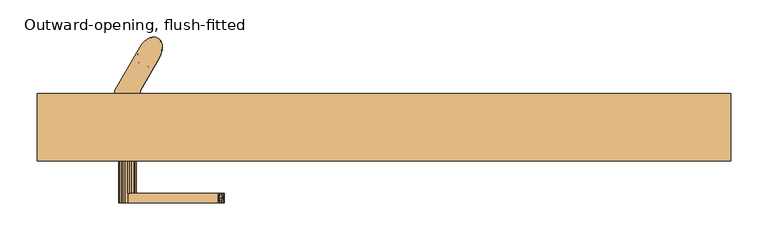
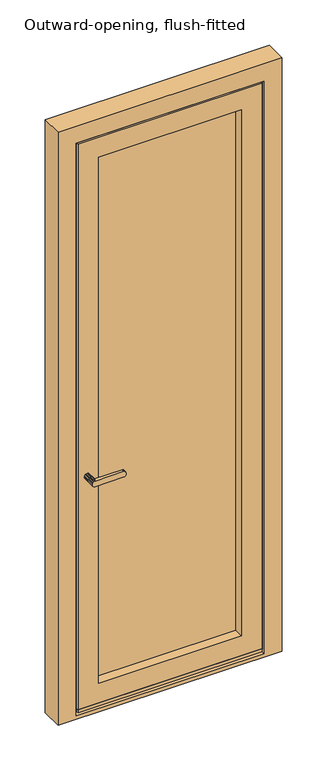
"""IFC4 building model written with IfcOpenShell, lengths in millimetres: door geometry, Outward-opening, flush-fitted."""

from ifc_helpers import new_model, si_unit, frame, origin, place, context, project, spatial, polyline, outline, extrude, faceted_brep, source, transform, mapped, element, save


def outward_opening_flush_fitted_0320c3c3(model_context):
    return source(origin(), model_context, "Body", "SolidModel", [
        faceted_brep([(112.5227579, 510.0, 1208.4772421), (115.0056846, 510.0, 1210.3824588), (117.897114, 510.0, 1211.5801281), (121.0, 510.0, 1211.9886308), (124.102886, 510.0, 1211.5801281), (126.9943154, 510.0, 1210.3824588), (129.4772421, 510.0, 1208.4772421), (131.3824588, 510.0, 1205.9943154), (132.5801281, 510.0, 1203.102886), (132.9886308, 510.0, 1200.0), (132.5801281, 510.0, 1196.897114), (131.3824588, 510.0, 1194.0056846), (129.4772421, 510.0, 1191.5227579), (126.9943154, 510.0, 1189.6175412), (124.102886, 510.0, 1188.4198719), (121.0, 510.0, 1188.0113692), (117.897114, 510.0, 1188.4198719), (115.0056846, 510.0, 1189.6175412), (112.5227579, 510.0, 1191.5227579), (110.6175412, 510.0, 1194.0056846), (109.4198719, 510.0, 1196.897114), (109.0113692, 510.0, 1200.0), (109.4198719, 510.0, 1203.102886), (110.6175412, 510.0, 1205.9943154), (124.102886, 466.5001175, 1188.4198719), (121.0, 466.5001175, 1188.0113692), (126.9943154, 466.5001175, 1189.6175412), (131.3824588, 466.5001175, 1194.0056846), (129.4772421, 466.5001175, 1191.5227579), (132.5801281, 466.5001175, 1196.897114), (132.9886308, 466.5001175, 1200.0), (132.5801281, 466.5001175, 1203.102886), (131.3824588, 466.5001175, 1205.9943154), (126.9943154, 466.5001175, 1210.3824588), (129.4772421, 466.5001175, 1208.4772421), (124.102886, 466.5001175, 1211.5801281), (121.0, 466.5001175, 1211.9886308), (117.897114, 454.0000305, 1211.5801281), (121.0, 454.0000305, 1211.9886308), (115.0056846, 454.0000305, 1210.3824588), (110.6175412, 454.0000305, 1205.9943154), (112.5227579, 454.0000305, 1208.4772421), (109.4198719, 454.0000305, 1203.102886), (109.0113692, 454.0000305, 1200.0), (109.4198719, 454.0000305, 1196.897114), (110.6175412, 454.0000305, 1194.0056846), (115.0056846, 454.0000305, 1189.6175412), (112.5227579, 454.0000305, 1191.5227579), (117.897114, 454.0000305, 1188.4198719), (121.0, 454.0000305, 1188.0113692), (242.6617926, 454.0000305, 1188.0113692), (244.2039971, 454.0000305, 1188.2417274), (245.6869356, 454.0000305, 1188.9239494), (247.0536195, 454.0000305, 1190.0318178), (248.2515279, 454.0000305, 1191.5227579), (249.234626, 454.0000305, 1193.3394736), (249.9651338, 454.0000305, 1195.4121496), (250.4149782, 454.0000305, 1197.6611342), (250.5668721, 454.0000305, 1200.0), (250.4149782, 454.0000305, 1202.3388658), (249.9651338, 454.0000305, 1204.5878504), (249.234626, 454.0000305, 1206.6605264), (248.2515279, 454.0000305, 1208.4772421), (247.0536195, 454.0000305, 1209.9681822), (245.6869356, 454.0000305, 1211.0760506), (244.2039971, 454.0000305, 1211.7582726), (242.6617926, 454.0000305, 1211.9886308), (249.9651338, 466.5001175, 1195.4121496), (249.234626, 466.5001175, 1193.3394736), (248.2515279, 466.5001175, 1191.5227579), (247.0536195, 466.5001175, 1190.0318178), (245.6869356, 466.5001175, 1188.9239494), (244.2039971, 466.5001175, 1188.2417274), (242.6617926, 466.5001175, 1188.0113692), (242.6617926, 466.5001175, 1211.9886308), (244.2039971, 466.5001175, 1211.7582726), (245.6869356, 466.5001175, 1211.0760506), (247.0536195, 466.5001175, 1209.9681822), (248.2515279, 466.5001175, 1208.4772421), (249.234626, 466.5001175, 1206.6605264), (249.9651338, 466.5001175, 1204.5878504), (250.4149782, 466.5001175, 1202.3388658), (250.5668721, 466.5001175, 1200.0), (250.4149782, 466.5001175, 1197.6611342), (242.6617926, 461.0756599, 1188.0113692), (246.3882212, 460.2500761, 1189.4269715), (248.7725017, 460.2500743, 1192.3944932), (250.226482, 460.250074, 1196.5198842), (249.6334503, 460.250074, 1205.6514014), (250.528807, 460.2500741, 1201.1750915), (244.9565161, 460.250074, 1211.4724044), (247.676722, 460.250074, 1209.2673369), (242.6617926, 460.250074, 1211.9886308)], [[[0, 1, 2, 3, 4, 5, 6, 7, 8, 9, 10, 11, 12, 13, 14, 15, 16, 17, 18, 19, 20, 21, 22, 23]], [[14, 24, 25, 15]], [[13, 26, 24, 14]], [[27, 28, 12, 11]], [[13, 12, 28, 26]], [[29, 27, 11, 10]], [[30, 29, 10, 9]], [[8, 31, 30, 9]], [[7, 32, 31, 8]], [[33, 34, 6, 5]], [[7, 6, 34, 32]], [[35, 33, 5, 4]], [[36, 35, 4, 3]], [[2, 37, 38, 36, 3]], [[1, 39, 37, 2]], [[23, 40, 41, 0]], [[1, 0, 41, 39]], [[22, 42, 40, 23]], [[21, 43, 42, 22]], [[20, 44, 43, 21]], [[19, 45, 44, 20]], [[17, 46, 47, 18]], [[19, 18, 47, 45]], [[16, 48, 46, 17]], [[25, 49, 48, 16, 15]], [[45, 47, 46, 48, 49, 50, 51, 52, 53, 54, 55, 56, 57, 58, 59, 60, 61, 62, 63, 64, 65, 66, 38, 37, 39, 41, 40, 42, 43, 44]], [[67, 68, 69, 70, 71, 72, 73, 25, 24, 26, 28, 27, 29, 30, 31, 32, 34, 33, 35, 36, 74, 75, 76, 77, 78, 79, 80, 81, 82, 83]], [[49, 25, 73, 84, 50]], [[85, 52, 51]], [[53, 85, 86]], [[67, 87, 68]], [[69, 86, 70]], [[80, 88, 81]], [[72, 85, 84]], [[57, 56, 87]], [[60, 59, 89]], [[86, 87, 56]], [[76, 90, 91, 77]], [[86, 55, 54]], [[79, 78, 91, 88]], [[58, 87, 89]], [[70, 85, 71]], [[84, 73, 72]], [[50, 84, 51]], [[85, 72, 71]], [[58, 57, 87]], [[52, 85, 53]], [[86, 56, 55]], [[86, 54, 53]], [[68, 86, 69]], [[86, 85, 70]], [[74, 92, 75]], [[92, 66, 65]], [[62, 61, 88, 91]], [[87, 86, 68]], [[85, 51, 84]], [[87, 67, 83]], [[91, 90, 64, 63]], [[89, 87, 83]], [[61, 60, 88]], [[89, 88, 60]], [[90, 65, 64]], [[63, 62, 91]], [[89, 83, 82]], [[81, 89, 82]], [[88, 89, 81]], [[79, 88, 80]], [[90, 92, 65]], [[78, 77, 91]], [[75, 90, 76]], [[75, 92, 90]], [[59, 58, 89]], [[38, 66, 92, 74, 36]]]),
        faceted_brep([(854.0, 510.0, 2674.0), (854.0, 518.3, 2674.0), (854.0, 518.3, 167.8651688), (854.0, 510.0, 165.0072496), (76.0, 518.3, 2674.0), (76.0, 518.3, 167.8651688), (55.5, 518.3, 167.8651688), (55.5, 518.3, 2694.5), (874.5, 518.3, 2694.5), (874.5, 518.3, 167.8651688), (874.5, 591.7, 2694.5), (874.5, 591.7, 164.3), (874.5, 532.0, 164.3), (874.5, 532.0, 170.0), (874.5, 524.5, 170.0), (886.0, 599.9993365, 150.0), (886.0, 591.7, 150.0), (886.0, 591.7, 2706.0), (886.0, 599.9993365, 2706.0), (930.0, 599.9993365, 150.0), (44.0, 599.9993365, 2706.0), (44.0, 599.9993365, 150.0), (0.0, 599.9993365, 150.0), (0.0, 599.9993365, 2750.0), (930.0, 599.9993365, 2750.0), (76.0, 510.0, 2674.0), (76.0, 510.0, 165.0072496), (44.0, 591.7, 2706.0), (44.0, 591.7, 150.0), (55.5, 591.7, 2694.5), (55.5, 524.5, 170.0), (55.5, 532.0, 170.0), (55.5, 532.0, 164.3), (55.5, 591.7, 164.3), (0.0, 510.0, 2750.0), (930.0, 510.0, 2750.0), (930.0, 510.0, 150.0), (0.0, 510.0, 150.0)], [[[0, 1, 2, 3]], [[1, 4, 5, 6, 7, 8, 9, 2]], [[8, 10, 11, 12, 13, 14, 9]], [[15, 16, 17, 18]], [[19, 15, 18, 20, 21, 22, 23, 24]], [[4, 25, 26, 5]], [[20, 27, 28, 21]], [[29, 7, 6, 30, 31, 32, 33]], [[25, 4, 1, 0]], [[27, 20, 18, 17]], [[23, 34, 35, 24]], [[29, 10, 8, 7]], [[19, 24, 35, 36]], [[34, 23, 22, 37]], [[37, 36, 35, 34], [3, 26, 25, 0]], [[19, 36, 37, 22, 21, 28, 16, 15]], [[14, 30, 6, 5, 26, 3, 2, 9]], [[16, 28, 27, 17], [33, 11, 10, 29]], [[11, 33, 32, 12]], [[12, 32, 31, 13]], [[13, 31, 30, 14]]]),
        faceted_brep([(71.5, 518.3, 2678.5), (71.5, 591.7, 2678.5), (71.5, 591.7, 178.5), (71.5, 518.3, 178.5), (51.0, 591.7, 2699.0), (51.0, 591.7, 158.0), (879.0, 591.7, 158.0), (879.0, 591.7, 2699.0), (858.5, 591.7, 2678.5), (858.5, 591.7, 178.5), (858.5, 518.3, 178.5), (858.5, 518.3, 2678.5), (847.0, 518.3, 2667.0), (847.0, 518.3, 190.0), (83.0, 518.3, 190.0), (83.0, 518.3, 2667.0), (83.0, 510.0, 2667.0), (83.0, 510.0, 190.0), (847.0, 510.0, 190.0), (847.0, 510.0, 2667.0), (761.9999695, 510.0, 2581.9999695), (761.9999695, 510.0, 275.0000305), (168.0000305, 510.0, 275.0000305), (168.0000305, 510.0, 2581.9999695), (168.0000305, 551.0, 2581.9999695), (168.0000305, 551.0, 275.0000305), (761.9999695, 551.0, 275.0000305), (777.0, 551.0, 2597.0), (777.0, 551.0, 260.0), (153.0, 551.0, 260.0), (153.0, 551.0, 2597.0), (761.9999695, 551.0, 2581.9999695), (153.0, 589.0, 2597.0), (153.0, 589.0, 260.0), (777.0, 589.0, 260.0), (777.0, 589.0, 2597.0), (760.0, 589.0, 2580.0), (760.0, 589.0, 277.0), (170.0, 589.0, 277.0), (170.0, 589.0, 2580.0), (170.0, 600.0, 2580.0), (170.0, 600.0, 277.0), (760.0, 600.0, 277.0), (879.0, 600.0, 2699.0), (879.0, 600.0, 158.0), (51.0, 600.0, 158.0), (51.0, 600.0, 2699.0), (760.0, 600.0, 2580.0)], [[[0, 1, 2, 3]], [[4, 5, 6, 7], [8, 9, 2, 1]], [[3, 2, 9, 10]], [[0, 3, 10, 11], [12, 13, 14, 15]], [[16, 15, 14, 17]], [[17, 14, 13, 18]], [[16, 17, 18, 19], [20, 21, 22, 23]], [[24, 23, 22, 25]], [[25, 22, 21, 26]], [[27, 28, 29, 30], [24, 25, 26, 31]], [[32, 30, 29, 33]], [[33, 29, 28, 34]], [[32, 33, 34, 35], [36, 37, 38, 39]], [[40, 39, 38, 41]], [[41, 38, 37, 42]], [[43, 44, 45, 46], [40, 41, 42, 47]], [[4, 46, 45, 5]], [[5, 45, 44, 6]], [[10, 9, 8, 11]], [[18, 13, 12, 19]], [[26, 21, 20, 31]], [[34, 28, 27, 35]], [[42, 37, 36, 47]], [[6, 44, 43, 7]], [[11, 8, 1, 0]], [[19, 12, 15, 16]], [[31, 20, 23, 24]], [[35, 27, 30, 32]], [[47, 36, 39, 40]], [[7, 43, 46, 4]]]),
        faceted_brep([(137.9561005, 600.0, 243.5), (137.9561005, 604.0, 243.5), (104.0438995, 604.0, 243.5), (104.0438995, 600.0, 243.5), (137.9561005, 604.0, 213.5), (104.0438995, 604.0, 213.5), (137.9561005, 600.0, 209.5), (137.9561005, 604.0, 209.5), (104.0438995, 600.0, 209.5), (104.0438995, 604.0, 209.5), (164.3389949, 672.5301271, 213.5), (161.7797579, 674.6325794, 213.5), (158.6793625, 675.7977182, 213.5), (155.1932755, 675.9671186, 213.5), (151.4963038, 675.1322861, 213.5), (147.773829, 673.3350828, 213.5), (144.2125117, 670.6656279, 213.5), (140.9909311, 667.2577791, 213.5), (138.2706308, 663.2824201, 213.5), (163.7047856, 648.5980002, 213.5), (165.7873991, 652.9415279, 213.5), (167.1278943, 657.4354221, 213.5), (167.6590531, 661.8543403, 213.5), (167.354241, 665.9766994, 213.5), (166.2287425, 669.5957871, 213.5), (138.2706308, 663.2824201, 209.5), (140.9909311, 667.2577791, 209.5), (144.2125117, 670.6656279, 209.5), (147.773829, 673.3350828, 209.5), (151.4963038, 675.1322861, 209.5), (155.1932755, 675.9671186, 209.5), (158.6793625, 675.7977182, 209.5), (161.7797579, 674.6325794, 209.5), (164.3389949, 672.5301271, 209.5), (166.2287425, 669.5957871, 209.5), (167.354241, 665.9766994, 209.5), (167.6590531, 661.8543403, 209.5), (167.1278943, 657.4354221, 209.5), (165.7873991, 652.9415279, 209.5), (163.7047856, 648.5980002, 209.5), (138.2706308, 663.2824201, 211.9099144), (163.7047856, 648.5980002, 211.0900855), (165.3743289, 671.1586471, 211.5), (153.3597053, 675.6737832, 211.5), (167.6445577, 661.4468941, 211.5)], [[[0, 1, 2, 3]], [[4, 5, 2, 1]], [[6, 7, 4, 1, 0]], [[8, 6, 0, 3]], [[9, 8, 3, 2, 5]], [[10, 11, 12, 13, 14, 15, 16, 17, 18, 5, 4, 19, 20, 21, 22, 23, 24]], [[6, 8, 9, 25, 26, 27, 28, 29, 30, 31, 32, 33, 34, 35, 36, 37, 38, 39, 7]], [[9, 5, 18, 40, 25]], [[7, 39, 41, 19, 4]], [[40, 18, 17]], [[26, 25, 40]], [[24, 42, 10]], [[43, 27, 40]], [[40, 27, 26]], [[43, 30, 29]], [[15, 43, 16]], [[13, 43, 14]], [[32, 31, 43]], [[41, 39, 38]], [[20, 19, 41]], [[28, 43, 29]], [[17, 16, 40]], [[31, 30, 43]], [[35, 34, 42]], [[28, 27, 43]], [[20, 41, 44]], [[15, 14, 43]], [[13, 12, 43]], [[40, 16, 43]], [[11, 43, 12]], [[32, 43, 42]], [[34, 33, 42]], [[35, 44, 36]], [[38, 37, 41]], [[37, 44, 41]], [[36, 44, 37]], [[44, 21, 20]], [[42, 43, 11]], [[32, 42, 33]], [[42, 11, 10]], [[23, 42, 24]], [[44, 42, 23]], [[35, 42, 44]], [[23, 22, 44]], [[22, 21, 44]]]),
        faceted_brep([(166.2287431, 669.5957857, 2643.5), (164.3389959, 672.5301259, 2643.5), (161.7797595, 674.6325784, 2643.5), (158.6793647, 675.7977178, 2643.5), (155.1932781, 675.9671188, 2643.5), (151.4963068, 675.1322872, 2643.5), (147.7738322, 673.3350848, 2643.5), (144.212515, 670.6656309, 2643.5), (140.9909342, 667.257783, 2643.5), (138.2706335, 663.2824248, 2643.5), (136.1880202, 658.9388975, 2643.5), (134.847525, 654.4450036, 2643.5), (134.3163661, 650.0260857, 2643.5), (134.6211779, 645.9037268, 2643.5), (135.7466761, 642.2846393, 2643.5), (137.6364232, 639.3502991, 2643.5), (140.1956596, 637.2478466, 2643.5), (143.2960545, 636.0827073, 2643.5), (146.7821411, 635.9133062, 2643.5), (150.4791124, 636.7481378, 2643.5), (154.2015869, 638.5453402, 2643.5), (157.7629042, 641.2147941, 2643.5), (160.9844849, 644.622642, 2643.5), (163.7047856, 648.5980002, 2643.5), (165.787399, 652.9415275, 2643.5), (167.1278941, 657.4354214, 2643.5), (167.6590531, 661.8543393, 2643.5), (167.3542412, 665.9766982, 2643.5), (143.2960545, 636.0827073, 213.5), (140.1956596, 637.2478466, 213.5), (137.6364232, 639.3502991, 213.5), (135.7466761, 642.2846393, 213.5), (134.6211779, 645.9037268, 213.5), (134.3163661, 650.0260857, 213.5), (134.847525, 654.4450036, 213.5), (136.1880202, 658.9388975, 213.5), (138.2706335, 663.2824248, 213.5), (140.9909342, 667.257783, 213.5), (144.212515, 670.6656309, 213.5), (147.7738322, 673.3350848, 213.5), (151.4963068, 675.1322872, 213.5), (155.1932781, 675.9671188, 213.5), (158.6793647, 675.7977178, 213.5), (161.7797595, 674.6325784, 213.5), (164.3389959, 672.5301259, 213.5), (166.2287431, 669.5957857, 213.5), (167.3542412, 665.9766982, 213.5), (167.6590531, 661.8543393, 213.5), (167.1278941, 657.4354214, 213.5), (165.787399, 652.9415275, 213.5), (163.7047856, 648.5980002, 213.5), (160.9844849, 644.622642, 213.5), (157.7629042, 641.2147941, 213.5), (154.2015869, 638.5453402, 213.5), (150.4791124, 636.7481378, 213.5), (146.7821411, 635.9133062, 213.5), (146.795722, 672.7002488, 285.1216157), (163.7047856, 648.5980002, 464.612136), (166.7192718, 668.3814933, 477.503479), (167.6667449, 662.3840043, 541.7922648), (165.3743296, 671.1586461, 2565.8178129), (153.359707, 675.6737836, 2551.4140378), (138.2706335, 663.2824248, 2559.7959546), (167.2176562, 666.6421284, 2288.9719226), (167.6442052, 663.4170006, 2205.4496908), (161.7797595, 674.6325784, 2214.3806783), (167.5983235, 660.689855, 2571.8783868), (156.9739605, 676.0086042, 291.1821801), (138.2706335, 663.2824248, 380.9080907), (145.7074112, 671.9089118, 412.3733957), (148.3303893, 673.6652573, 349.5601242), (153.896408, 675.7847841, 2379.4965602), (138.2706335, 663.2824248, 2392.3878682), (151.2884269, 675.0570647, 2465.163568), (150.0235245, 674.535689, 1487.3231053), (162.4020857, 674.2421075, 1504.4375282), (159.2966599, 675.6535898, 1406.0393016), (167.6667127, 662.5014222, 2507.4398827), (163.1357621, 673.6929778, 2490.8363335), (162.6367613, 674.0776297, 2417.7296311), (164.8527338, 671.9034648, 278.6589928), (167.6111722, 663.9659797, 316.9067942), (147.8244912, 673.3660578, 845.8962913), (157.9552272, 675.9194231, 799.4283622), (147.3792233, 673.0874413, 757.5763391), (163.7047856, 648.5980002, 2392.387864), (167.4571604, 659.3516824, 2444.6266291), (163.7047856, 648.5980002, 2476.0919094), (161.7797596, 674.6325784, 642.6193347), (151.9403519, 675.2830609, 570.2187422), (148.7828448, 673.917446, 667.2367993), (138.2706335, 663.2824248, 464.6121361), (161.2248379, 674.9300646, 1205.6986099), (166.8405253, 668.0219413, 1192.222599), (163.5673883, 673.3177683, 1149.2579881), (163.7047856, 648.5980002, 2308.6838187), (167.4665493, 665.2946764, 2388.4378932), (138.2706335, 663.2824248, 2476.0919136), (138.2706335, 663.2824248, 297.2040454), (147.9917676, 673.4670173, 1774.1505885), (160.3972502, 675.2953544, 1740.4701392), (150.5007637, 674.7452541, 1696.9848803), (163.7047856, 648.5980002, 2559.7959547), (160.2880384, 675.3371126, 366.1636538), (167.6403986, 661.3575628, 2046.7077944), (167.6335211, 663.6238286, 1979.3677583), (161.0977646, 674.9920104, 2019.6291527), (163.7047856, 648.5980002, 297.2040453), (162.8668302, 673.9064169, 1308.7344475), (167.6559713, 663.1175277, 1293.2709458), (165.6281199, 670.7466494, 1252.5353002), (166.9201513, 667.7679986, 2104.1709683), (163.7047856, 648.5980002, 2104.1709547), (149.125675, 674.0989603, 2256.0459646), (159.9777111, 675.4480687, 2293.6236249), (148.1006592, 673.5316591, 2180.3062673), (163.7047856, 648.5980002, 2172.3419094), (138.2706335, 663.2824248, 2029.9614095), (148.8921881, 673.9762309, 1995.8759468), (138.2706335, 663.2824248, 1961.7904516), (138.2706335, 663.2824248, 548.3161815), (150.8495019, 674.8885374, 468.5621488), (160.8706589, 675.09729, 439.2704161), (163.9008374, 672.9973706, 557.1813833), (164.0894827, 672.8030443, 852.2089645), (167.6666476, 662.3530966, 834.9201968), (167.4342661, 665.5083643, 762.7331652), (138.2706335, 663.2824248, 799.4283176), (166.9870278, 667.5418638, 398.4349267), (167.5075037, 659.7546363, 707.8728853), (165.9068136, 670.2476331, 699.2659079), (156.9798309, 676.0083175, 903.5304253), (163.7047856, 648.5980002, 1200.6875), (145.9207492, 672.0713157, 2088.7278998), (153.2753698, 675.6544886, 2052.4130295), (158.5314991, 675.8266146, 1830.408395), (167.5746406, 664.3958882, 1800.142792), (158.3653083, 675.8565813, 718.9515468), (167.6648167, 662.72976, 1020.4493798), (162.0472221, 674.4725453, 1000.9284447), (165.6686243, 670.677361, 1093.9612926), (167.3167243, 666.173408, 906.0013833), (163.7047856, 648.5980002, 896.9375), (152.8752069, 675.5561422, 1233.2770129), (163.8509984, 673.0470828, 2351.9174602), (162.5848869, 674.1148505, 2147.0247257), (163.7047856, 648.5980002, 2240.512864), (161.8959319, 674.5644581, 2086.3960042), (148.6034568, 673.8191863, 1895.0175583), (162.9997136, 673.8028033, 1914.3748425), (167.6602897, 662.9655423, 1901.1370691), (165.7405303, 670.5517535, 1854.135443), (147.310957, 673.0434449, 2324.2208066), (138.2706335, 663.2824248, 2308.6838228), (138.2706335, 663.2824248, 2203.4080907), (138.2706335, 663.2824248, 2240.512864), (138.2706335, 663.2824248, 2098.132363), (163.7047856, 648.5980002, 1960.0625), (163.7047856, 648.5980002, 2036.0), (149.1501248, 674.1115922, 1834.4107874), (167.6457675, 663.382843, 1720.7387555), (163.7047856, 648.5980002, 1732.25), (160.0394556, 675.4268847, 1673.191234), (167.6538006, 663.1821215, 1470.228178), (167.4858077, 665.1582545, 1557.657775), (163.7047856, 648.5980002, 1504.4375), (138.2706335, 663.2824248, 1469.0606806), (138.2706335, 663.2824248, 1504.4375), (138.2706335, 663.2824248, 1552.764726), (149.4961181, 674.2858992, 1334.6720691), (167.6322938, 663.6452491, 1372.2803887), (163.7047856, 648.5980002, 1352.5625), (138.2706335, 663.2824248, 1893.619498), (138.2706335, 663.2824248, 1960.0625), (138.2706335, 663.2824248, 1825.4485445), (163.7047856, 648.5980002, 1884.125), (163.7047856, 648.5980002, 1825.4485447), (163.7047856, 648.5980002, 1757.2775934), (157.4871831, 675.9724559, 1559.3780694), (147.0332923, 672.8609494, 1568.5371043), (138.2706335, 663.2824248, 1620.9356795), (153.7643279, 675.7593661, 1620.9357053), (167.051529, 667.3109201, 1644.5888479), (162.6040277, 674.1011746, 1613.1018563), (138.2706335, 663.2824248, 1656.3125), (138.2706335, 663.2824248, 1732.25), (138.2706335, 663.2824248, 1757.2775909), (163.7047856, 648.5980002, 1580.375), (163.7047856, 648.5980002, 1656.3125), (163.7047856, 648.5980002, 1620.935682), (147.7254206, 673.3053124, 1413.3263758), (138.2706335, 663.2824248, 1385.3566352), (138.2706335, 663.2824248, 1428.5), (163.7047856, 648.5980002, 1428.5), (138.2706335, 663.2824248, 1580.375), (163.7047856, 648.5980002, 1552.7647263), (138.2706335, 663.2824248, 1217.9485445), (138.2706335, 663.2824248, 1301.6525899), (148.8264538, 673.9409913, 1008.6884699), (152.9709179, 675.580683, 1092.3925137), (138.2706335, 663.2824248, 1050.5404537), (138.2706335, 663.2824248, 1124.75), (138.2706335, 663.2824248, 1134.2444991), (146.0950792, 672.2013534, 924.9844261), (138.2706335, 663.2824248, 883.132363), (138.2706335, 663.2824248, 896.9375), (138.2706335, 663.2824248, 966.8364084), (163.7047856, 648.5980002, 1124.75), (167.4597798, 659.3714072, 1086.7812867), (153.0787804, 675.6075734, 1162.8389736), (138.2706335, 663.2824248, 1200.6875), (167.5535413, 660.1818352, 959.1164959), (163.7047856, 648.5980002, 972.875), (163.7047856, 648.5980002, 1048.8125), (163.7047856, 648.5980002, 1050.5404529), (138.2706335, 663.2824248, 972.875), (138.2706335, 663.2824248, 1048.8125), (138.2706335, 663.2824248, 1352.5625), (138.2706335, 663.2824248, 715.7242722), (138.2706335, 663.2824248, 752.8290453), (138.2706335, 663.2824248, 821.0), (138.2706335, 663.2824248, 632.0202269), (159.2923702, 675.6547259, 503.7778315), (167.6599319, 661.8884881, 618.5959499), (163.7047856, 648.5980002, 821.0), (163.7047856, 648.5980002, 752.8290453), (138.2706335, 663.2824248, 684.6580906), (163.7047856, 648.5980002, 632.0202264), (163.7047856, 648.5980002, 548.3161813), (163.7047856, 648.5980002, 684.6580906), (163.7047856, 648.5980002, 799.4283205), (163.7047856, 648.5980002, 715.7242735), (163.7047856, 648.5980002, 1469.0606793), (163.7047856, 648.5980002, 1301.6525939), (163.7047856, 648.5980002, 1217.9485469), (163.7047856, 648.5980002, 2203.4080919), (163.7047856, 648.5980002, 380.9080906), (163.7047856, 648.5980002, 1134.2444999), (163.7047856, 648.5980002, 2098.1323632), (138.2706335, 663.2824248, 2104.1709547), (138.2706335, 663.2824248, 2172.3419094), (154.2702042, 675.849936, 2114.9816334), (163.7047856, 648.5980002, 1893.6194961), (163.7047856, 648.5980002, 2029.9614075), (163.7047856, 648.5980002, 1961.7904518), (138.2706335, 663.2824248, 2036.0), (138.2706335, 663.2824248, 1884.125), (163.7047856, 648.5980002, 1385.3566366), (163.7047856, 648.5980002, 966.8364058), (163.7047856, 648.5980002, 883.1323632), (155.1796972, 639.1801762, 285.1216157), (135.2561474, 643.4989317, 477.503479), (134.3086743, 649.4964207, 541.7922648), (136.6010896, 640.7217789, 2565.8178129), (148.6157121, 636.2066414, 2551.4140378), (134.7577629, 645.2382966, 2288.9719226), (134.3312139, 648.4634244, 2205.4496908), (140.1956596, 637.2478466, 2214.3806783), (134.3770956, 651.19057, 2571.8783868), (145.0014586, 635.8718208, 291.1821801), (156.2680079, 639.9715132, 412.3733957), (153.6450299, 638.2151677, 349.5601242), (148.0790111, 636.0956409, 2379.4965602), (150.6869922, 636.8233603, 2465.163568), (151.9518947, 637.344736, 1487.3231053), (139.5733334, 637.6383175, 1504.4375282), (142.6787592, 636.2268352, 1406.0393016), (134.3087064, 649.3790028, 2507.4398827), (138.839657, 638.1874472, 2490.8363335), (139.3386578, 637.8027953, 2417.7296311), (137.1226854, 639.9769602, 278.6589928), (134.3642469, 647.9144453, 316.9067942), (154.1509279, 638.5143672, 845.8962913), (144.0201919, 635.9610019, 799.4283622), (154.5961959, 638.7929837, 757.5763391), (134.5182588, 652.5287426, 2444.6266291), (140.1956596, 637.2478466, 642.6193347), (150.0350672, 636.5973641, 570.2187422), (153.1925743, 637.962979, 667.2367993), (140.7505813, 636.9503604, 1205.6986099), (135.1348938, 643.8584837, 1192.222599), (138.4080308, 638.5626567, 1149.2579881), (134.5088698, 646.5857486, 2388.4378932), (153.9836515, 638.4134077, 1774.1505885), (141.5781689, 636.5850706, 1740.4701392), (151.4746554, 637.1351709, 1696.9848803), (141.6873807, 636.5433125, 366.1636538), (134.3350205, 650.5228622, 2046.7077944), (134.341898, 648.2565964, 1979.3677583), (140.8776545, 636.8884146, 2019.6291527), (139.1085889, 637.9740081, 1308.7344475), (134.3194479, 648.7628973, 1293.2709458), (136.3472992, 641.1337756, 1252.5353002), (135.0552678, 644.1124264, 2104.1709683), (152.8497442, 637.7814647, 2256.0459646), (141.9977081, 636.4323563, 2293.6236249), (153.87476, 638.3487659, 2180.3062673), (153.083231, 637.9041941, 1995.8759468), (151.1259173, 636.9918876, 468.5621488), (141.1047602, 636.783135, 439.2704161), (138.0745817, 638.8830544, 557.1813833), (137.8859364, 639.0773807, 852.2089645), (134.3087716, 649.5273284, 834.9201968), (134.5411531, 646.3720607, 762.7331652), (134.9883913, 644.3385612, 398.4349267), (134.4679155, 652.1257887, 707.8728853), (136.0686056, 641.6327919, 699.2659079), (144.9955882, 635.8721075, 903.5304253), (156.0546699, 639.8091093, 2088.7278998), (148.7000493, 636.2259364, 2052.4130295), (143.4439201, 636.0538104, 1830.408395), (134.4007785, 647.4845368, 1800.142792), (143.6101109, 636.0238437, 718.9515468), (134.3106025, 649.150665, 1020.4493798), (139.9281971, 637.4078797, 1000.9284447), (136.3067948, 641.203064, 1093.9612926), (134.6586948, 645.707017, 906.0013833), (149.1002122, 636.3242828, 1233.2770129), (138.1244208, 638.8333422, 2351.9174602), (139.3905322, 637.7655745, 2147.0247257), (140.0794872, 637.3159669, 2086.3960042), (153.3719623, 638.0612387, 1895.0175583), (138.9757056, 638.0776217, 1914.3748425), (134.3151295, 648.9148827, 1901.1370691), (136.2348888, 641.3286715, 1854.135443), (154.6644621, 638.8369801, 2324.2208066), (152.8252944, 637.7688328, 1834.4107874), (134.3296517, 648.497582, 1720.7387555), (141.9359636, 636.4535403, 1673.191234), (134.3216186, 648.6983035, 1470.228178), (134.4896115, 646.7221705, 1557.657775), (152.479301, 637.5945258, 1334.6720691), (134.3431253, 648.2351759, 1372.2803887), (144.4882361, 635.9079691, 1559.3780694), (154.9421269, 639.0194756, 1568.5371043), (148.2110913, 636.1210589, 1620.9357053), (134.9238901, 644.5695049, 1644.5888479), (139.3713914, 637.7792504, 1613.1018563), (154.2499986, 638.5751126, 1413.3263758), (153.1489654, 637.9394337, 1008.6884699), (149.0045013, 636.299742, 1092.3925137), (155.8803399, 639.6790716, 924.9844261), (134.5156393, 652.5090178, 1086.7812867), (148.8966388, 636.2728517, 1162.8389736), (134.4218779, 651.6985899, 959.1164959), (142.6830489, 636.2256991, 503.7778315), (134.3154873, 649.9919369, 618.5959499), (147.705215, 636.030489, 2114.9816334)], [[[0, 1, 2, 3, 4, 5, 6, 7, 8, 9, 10, 11, 12, 13, 14, 15, 16, 17, 18, 19, 20, 21, 22, 23, 24, 25, 26, 27]], [[28, 29, 30, 31, 32, 33, 34, 35, 36, 37, 38, 39, 40, 41, 42, 43, 44, 45, 46, 47, 48, 49, 50, 51, 52, 53, 54, 55]], [[38, 37, 56]], [[57, 58, 59]], [[60, 3, 2]], [[5, 61, 6]], [[7, 62, 8]], [[63, 64, 65]], [[60, 61, 3]], [[66, 60, 27]], [[56, 67, 40]], [[68, 69, 70]], [[67, 56, 70]], [[5, 4, 61]], [[71, 72, 73]], [[74, 75, 76]], [[77, 78, 60]], [[1, 60, 2]], [[79, 71, 73]], [[41, 67, 42]], [[6, 61, 7]], [[80, 81, 46]], [[66, 26, 25]], [[82, 83, 84]], [[85, 86, 87]], [[88, 89, 90]], [[69, 68, 91]], [[92, 93, 94]], [[60, 0, 27]], [[7, 61, 62]], [[0, 60, 1]], [[25, 24, 66]], [[95, 63, 96]], [[61, 60, 78]], [[80, 44, 43]], [[43, 42, 67]], [[97, 62, 61]], [[37, 36, 98]], [[62, 9, 8]], [[99, 100, 101]], [[66, 102, 77]], [[67, 103, 80]], [[86, 77, 87]], [[104, 105, 106]], [[4, 3, 61]], [[70, 103, 67]], [[107, 50, 49]], [[23, 102, 24]], [[108, 109, 110]], [[60, 66, 77]], [[48, 81, 107]], [[56, 98, 70]], [[47, 46, 81]], [[46, 45, 80]], [[56, 39, 38]], [[47, 81, 48]], [[67, 80, 43]], [[67, 41, 40]], [[111, 112, 104]], [[85, 95, 96]], [[87, 77, 102]], [[86, 96, 79]], [[113, 114, 65]], [[113, 65, 115]], [[116, 112, 111]], [[73, 61, 78]], [[117, 118, 119]], [[91, 120, 121]], [[68, 70, 98]], [[69, 121, 122]], [[89, 88, 123]], [[124, 125, 126]], [[127, 82, 84]], [[58, 128, 122]], [[126, 129, 130]], [[124, 83, 131]], [[109, 132, 93]], [[73, 97, 61]], [[103, 122, 128]], [[133, 134, 118]], [[135, 136, 100]], [[137, 126, 130]], [[90, 137, 88]], [[138, 139, 140]], [[141, 142, 125]], [[110, 92, 143]], [[144, 79, 96]], [[65, 145, 115]], [[111, 64, 116]], [[63, 146, 64]], [[147, 145, 111]], [[135, 148, 149]], [[150, 136, 151]], [[152, 113, 153]], [[149, 118, 106]], [[113, 154, 155, 153]], [[148, 118, 149]], [[156, 115, 133]], [[105, 149, 106]], [[105, 157, 150]], [[149, 105, 150]], [[158, 105, 104]], [[154, 113, 115]], [[114, 63, 65]], [[135, 99, 159]], [[160, 136, 161]], [[101, 100, 162]], [[163, 164, 165]], [[74, 166, 167, 168]], [[143, 169, 108]], [[170, 171, 109]], [[117, 133, 118]], [[169, 76, 108]], [[148, 119, 118]], [[106, 118, 134]], [[148, 172, 173, 119]], [[159, 99, 174]], [[100, 99, 135]], [[160, 162, 100]], [[136, 175, 176, 177, 161]], [[136, 150, 175]], [[75, 178, 164]], [[179, 180, 181]], [[182, 164, 183]], [[101, 180, 184, 185, 186]], [[162, 181, 101]], [[183, 162, 182]], [[182, 187, 164]], [[186, 99, 101]], [[75, 163, 76]], [[145, 65, 64]], [[63, 95, 146]], [[181, 162, 183]], [[182, 162, 160]], [[181, 183, 178]], [[164, 178, 183]], [[75, 164, 163]], [[182, 188, 189, 187]], [[178, 179, 181]], [[190, 76, 169]], [[75, 74, 178]], [[179, 178, 74]], [[190, 191, 192, 166]], [[74, 76, 190]], [[163, 193, 170]], [[168, 179, 74]], [[180, 101, 181]], [[179, 168, 194, 180]], [[164, 187, 195, 165]], [[108, 76, 170]], [[163, 170, 76]], [[108, 170, 109]], [[143, 196, 197]], [[169, 143, 197]], [[139, 131, 198]], [[199, 200, 201, 202]], [[110, 93, 92]], [[203, 204, 205, 206]], [[93, 207, 208]], [[209, 202, 210, 196]], [[140, 139, 199]], [[209, 199, 202]], [[211, 138, 212]], [[208, 140, 93]], [[141, 139, 211]], [[213, 138, 208]], [[208, 207, 214, 213]], [[139, 141, 131]], [[83, 126, 137]], [[199, 198, 200]], [[82, 203, 131]], [[198, 206, 215, 216, 200]], [[203, 206, 198]], [[198, 199, 139]], [[169, 197, 217, 191]], [[204, 203, 82]], [[131, 203, 198]], [[84, 218, 219, 127]], [[83, 82, 131]], [[82, 127, 220, 204]], [[218, 84, 90]], [[84, 83, 137]], [[89, 120, 221]], [[90, 89, 221]], [[89, 121, 120]], [[222, 122, 121]], [[84, 137, 90]], [[123, 88, 223]], [[88, 137, 130]], [[125, 224, 126]], [[126, 225, 129]], [[90, 221, 226, 218]], [[121, 89, 222]], [[58, 123, 59]], [[123, 223, 59]], [[227, 228, 223, 229]], [[130, 223, 88]], [[229, 223, 129]], [[130, 129, 223]], [[126, 224, 230, 225]], [[129, 225, 231, 229]], [[163, 165, 232, 193]], [[213, 212, 138]], [[109, 171, 233, 234, 132]], [[140, 208, 138]], [[96, 63, 144]], [[71, 114, 152]], [[58, 57, 128]], [[228, 59, 223]], [[64, 146, 235, 116]], [[24, 102, 66]], [[26, 66, 27]], [[86, 79, 78]], [[37, 98, 56]], [[39, 56, 40]], [[69, 122, 103]], [[77, 86, 78]], [[96, 86, 85]], [[70, 69, 103]], [[121, 69, 91]], [[107, 49, 48]], [[81, 236, 107]], [[93, 132, 237, 207]], [[151, 149, 150]], [[104, 112, 238, 158]], [[151, 135, 149]], [[151, 136, 135]], [[115, 156, 239, 240, 154]], [[145, 241, 115]], [[108, 110, 143]], [[110, 109, 93]], [[92, 209, 143]], [[93, 140, 94]], [[196, 143, 209]], [[140, 199, 94]], [[94, 209, 92]], [[209, 94, 199]], [[44, 80, 45]], [[81, 80, 103]], [[78, 79, 73]], [[114, 71, 144]], [[79, 144, 71]], [[114, 144, 63]], [[97, 73, 72]], [[72, 152, 153]], [[123, 58, 222]], [[128, 81, 103]], [[81, 128, 236]], [[122, 222, 58]], [[123, 222, 89]], [[236, 128, 57]], [[57, 59, 228]], [[241, 145, 147]], [[111, 145, 64]], [[241, 147, 134]], [[106, 147, 104]], [[150, 157, 242, 175]], [[105, 158, 243, 244, 157]], [[147, 111, 104]], [[113, 152, 114]], [[71, 152, 72]], [[106, 134, 147]], [[241, 134, 133]], [[241, 133, 115]], [[133, 117, 245, 156]], [[159, 174, 246, 172]], [[159, 148, 135]], [[172, 148, 159]], [[99, 186, 174]], [[136, 160, 100]], [[160, 161, 188]], [[182, 160, 188]], [[74, 190, 166]], [[191, 190, 169]], [[170, 193, 247, 171]], [[138, 211, 139]], [[211, 212, 248, 142]], [[141, 211, 142]], [[125, 142, 249, 224]], [[141, 125, 124]], [[141, 124, 131]], [[83, 124, 126]], [[52, 51, 250]], [[91, 251, 252]], [[253, 17, 16]], [[19, 254, 20]], [[21, 102, 22]], [[255, 256, 257]], [[253, 254, 17]], [[258, 253, 13]], [[250, 259, 54]], [[236, 260, 261]], [[259, 250, 261]], [[19, 18, 254]], [[262, 85, 263]], [[264, 265, 266]], [[267, 268, 253]], [[15, 253, 16]], [[269, 262, 263]], [[55, 259, 28]], [[20, 254, 21]], [[270, 271, 32]], [[258, 12, 11]], [[272, 273, 274]], [[72, 275, 97]], [[276, 277, 278]], [[260, 236, 57]], [[279, 280, 281]], [[253, 14, 13]], [[21, 254, 102]], [[14, 253, 15]], [[11, 10, 258]], [[153, 255, 282]], [[254, 253, 268]], [[270, 30, 29]], [[29, 28, 259]], [[87, 102, 254]], [[51, 50, 107]], [[102, 23, 22]], [[283, 284, 285]], [[258, 62, 267]], [[259, 286, 270]], [[275, 267, 97]], [[287, 288, 289]], [[18, 17, 254]], [[261, 286, 259]], [[98, 36, 35]], [[9, 62, 10]], [[290, 291, 292]], [[253, 258, 267]], [[34, 271, 98]], [[250, 107, 261]], [[33, 32, 271]], [[32, 31, 270]], [[250, 53, 52]], [[33, 271, 34]], [[259, 270, 29]], [[259, 55, 54]], [[293, 239, 287]], [[72, 153, 282]], [[97, 267, 62]], [[275, 282, 269]], [[294, 295, 257]], [[294, 257, 296]], [[240, 239, 293]], [[263, 254, 268]], [[243, 297, 244]], [[57, 228, 298]], [[236, 261, 107]], [[260, 298, 299]], [[277, 276, 300]], [[301, 302, 303]], [[230, 272, 274]], [[251, 304, 299]], [[303, 305, 306]], [[301, 273, 307]], [[291, 210, 280]], [[263, 87, 254]], [[286, 299, 304]], [[308, 309, 297]], [[310, 311, 284]], [[312, 303, 306]], [[278, 312, 276]], [[313, 314, 315]], [[316, 205, 302]], [[292, 279, 317]], [[318, 269, 282]], [[257, 319, 296]], [[293, 256, 240]], [[255, 155, 256]], [[320, 319, 293]], [[310, 321, 322]], [[323, 311, 324]], [[325, 294, 95]], [[322, 297, 289]], [[294, 235, 146, 95]], [[321, 297, 322]], [[238, 296, 308]], [[288, 322, 289]], [[288, 173, 323]], [[322, 288, 323]], [[245, 288, 287]], [[235, 294, 296]], [[295, 255, 257]], [[310, 283, 326]], [[327, 311, 185]], [[285, 284, 328]], [[329, 330, 167]], [[264, 232, 165, 195]], [[317, 331, 290]], [[332, 217, 291]], [[243, 308, 297]], [[331, 266, 290]], [[321, 244, 297]], [[289, 297, 309]], [[321, 242, 157, 244]], [[326, 283, 176]], [[284, 283, 310]], [[327, 328, 284]], [[311, 246, 174, 186, 185]], [[311, 323, 246]], [[265, 333, 330]], [[334, 189, 335]], [[336, 330, 337]], [[285, 189, 188, 161, 177]], [[328, 335, 285]], [[337, 328, 336]], [[336, 194, 330]], [[177, 283, 285]], [[265, 329, 266]], [[319, 257, 256]], [[255, 153, 155]], [[335, 328, 337]], [[336, 328, 327]], [[335, 337, 333]], [[330, 333, 337]], [[265, 330, 329]], [[336, 184, 180, 194]], [[333, 334, 335]], [[338, 266, 331]], [[265, 264, 333]], [[334, 333, 264]], [[338, 247, 193, 232]], [[264, 266, 338]], [[329, 192, 332]], [[195, 334, 264]], [[189, 285, 335]], [[334, 195, 187, 189]], [[330, 194, 168, 167]], [[290, 266, 332]], [[329, 332, 266]], [[290, 332, 291]], [[317, 234, 233]], [[331, 317, 233]], [[314, 307, 339]], [[340, 214, 207, 237]], [[292, 280, 279]], [[341, 249, 142, 248]], [[280, 201, 342]], [[343, 237, 132, 234]], [[315, 314, 340]], [[343, 340, 237]], [[344, 313, 215]], [[342, 315, 280]], [[316, 314, 344]], [[216, 313, 342]], [[342, 201, 200, 216]], [[314, 316, 307]], [[273, 303, 312]], [[340, 339, 214]], [[272, 341, 307]], [[339, 248, 212, 213, 214]], [[341, 248, 339]], [[339, 340, 314]], [[331, 233, 171, 247]], [[249, 341, 272]], [[307, 341, 339]], [[274, 231, 225, 230]], [[273, 272, 307]], [[272, 230, 224, 249]], [[231, 274, 278]], [[274, 273, 312]], [[277, 228, 227]], [[278, 277, 227]], [[277, 298, 228]], [[345, 299, 298]], [[274, 312, 278]], [[300, 276, 346]], [[276, 312, 306]], [[302, 220, 303]], [[303, 219, 305]], [[278, 227, 229, 231]], [[298, 277, 345]], [[251, 300, 252]], [[300, 346, 252]], [[221, 120, 346, 226]], [[306, 346, 276]], [[226, 346, 305]], [[306, 305, 346]], [[303, 220, 127, 219]], [[305, 219, 218, 226]], [[329, 167, 166, 192]], [[216, 215, 313]], [[291, 217, 197, 196, 210]], [[315, 342, 313]], [[282, 255, 318]], [[262, 295, 325]], [[251, 91, 304]], [[120, 252, 346]], [[256, 155, 154, 240]], [[10, 62, 258]], [[12, 258, 13]], [[275, 269, 268]], [[51, 107, 250]], [[53, 250, 54]], [[260, 299, 286]], [[267, 275, 268]], [[282, 275, 72]], [[261, 260, 286]], [[298, 260, 57]], [[98, 35, 34]], [[271, 68, 98]], [[280, 210, 202, 201]], [[324, 322, 323]], [[287, 239, 156, 245]], [[324, 310, 322]], [[324, 311, 310]], [[296, 238, 112, 116, 235]], [[319, 347, 296]], [[290, 292, 317]], [[292, 291, 280]], [[279, 343, 317]], [[280, 315, 281]], [[234, 317, 343]], [[315, 340, 281]], [[281, 343, 279]], [[343, 281, 340]], [[30, 270, 31]], [[271, 270, 286]], [[268, 269, 263]], [[295, 262, 318]], [[269, 318, 262]], [[295, 318, 255]], [[87, 263, 85]], [[85, 325, 95]], [[300, 251, 345]], [[304, 271, 286]], [[271, 304, 68]], [[299, 345, 251]], [[300, 345, 277]], [[68, 304, 91]], [[91, 252, 120]], [[347, 319, 320]], [[293, 319, 256]], [[347, 320, 309]], [[289, 320, 287]], [[323, 173, 172, 246]], [[288, 245, 117, 119, 173]], [[320, 293, 287]], [[294, 325, 295]], [[262, 325, 85]], [[289, 309, 320]], [[347, 309, 308]], [[347, 308, 296]], [[308, 243, 158, 238]], [[326, 176, 175, 242]], [[326, 321, 310]], [[242, 321, 326]], [[283, 177, 176]], [[311, 327, 284]], [[327, 185, 184]], [[336, 327, 184]], [[264, 338, 232]], [[247, 338, 331]], [[332, 192, 191, 217]], [[313, 344, 314]], [[344, 215, 206, 205]], [[316, 344, 205]], [[302, 205, 204, 220]], [[316, 302, 301]], [[316, 301, 307]], [[273, 301, 303]]]),
        extrude(outline(polyline([(83.0, 510.0), (83.0, 518.3), (847.0, 518.3), (847.0, 510.0), (83.0, 510.0)])), frame((0.0, 0.0, 176.0), z_axis=(0.0, 0.0, 1.0), x_axis=(1.0, 0.0, 0.0)), (0.0, 0.0, 1.0), 14.0),
        extrude(outline(polyline([(153.0, 589.0), (777.0, 589.0), (777.0, 551.0), (153.0, 551.0), (153.0, 589.0)])), frame((0.0, 0.0, 260.0), z_axis=(0.0, 0.0, 1.0), x_axis=(1.0, 0.0, 0.0)), (0.0, 0.0, 1.0), 2337.0),
        faceted_brep([(104.0438995, 600.0, 2613.5), (104.0438995, 604.0, 2613.5), (137.9561005, 604.0, 2613.5), (137.9561005, 600.0, 2613.5), (104.0438995, 604.0, 2643.5), (137.9561005, 604.0, 2643.5), (137.9561005, 604.0, 2647.5), (137.9561005, 600.0, 2647.5), (104.0438995, 600.0, 2647.5), (104.0438995, 604.0, 2647.5), (138.2706335, 663.2824248, 2643.5), (140.9909342, 667.257783, 2643.5), (144.212515, 670.6656309, 2643.5), (147.7738322, 673.3350848, 2643.5), (151.4963068, 675.1322872, 2643.5), (155.1932781, 675.9671188, 2643.5), (158.6793647, 675.7977178, 2643.5), (161.7797595, 674.6325784, 2643.5), (164.3389959, 672.5301259, 2643.5), (166.2287431, 669.5957857, 2643.5), (167.3542412, 665.9766982, 2643.5), (167.6590531, 661.8543393, 2643.5), (167.1278941, 657.4354214, 2643.5), (165.787399, 652.9415275, 2643.5), (163.7047856, 648.5980002, 2643.5), (164.3389959, 672.5301259, 2647.5), (161.7797595, 674.6325784, 2647.5), (158.6793647, 675.7977178, 2647.5), (155.1932781, 675.9671188, 2647.5), (151.4963068, 675.1322872, 2647.5), (147.7738322, 673.3350848, 2647.5), (144.212515, 670.6656309, 2647.5), (140.9909342, 667.257783, 2647.5), (138.2706335, 663.2824248, 2647.5), (163.7047856, 648.5980002, 2647.5), (165.787399, 652.9415275, 2647.5), (167.1278941, 657.4354214, 2647.5), (167.6590531, 661.8543393, 2647.5), (167.3542412, 665.9766982, 2647.5), (166.2287431, 669.5957857, 2647.5), (138.2706335, 663.2824248, 2645.9099144), (163.7047856, 648.5980002, 2645.0900853), (165.3743297, 671.1586458, 2645.5), (153.3597081, 675.6737838, 2645.5), (167.6445577, 661.4468931, 2645.5)], [[[0, 1, 2, 3]], [[2, 1, 4, 5]], [[3, 2, 5, 6, 7]], [[0, 3, 7, 8]], [[1, 0, 8, 9, 4]], [[5, 4, 10, 11, 12, 13, 14, 15, 16, 17, 18, 19, 20, 21, 22, 23, 24]], [[25, 26, 27, 28, 29, 30, 31, 32, 33, 9, 8, 7, 6, 34, 35, 36, 37, 38, 39]], [[4, 9, 33, 40, 10]], [[5, 24, 41, 34, 6]], [[40, 33, 32]], [[11, 10, 40]], [[39, 42, 25]], [[43, 12, 40]], [[40, 12, 11]], [[43, 15, 14]], [[30, 43, 31]], [[28, 43, 29]], [[17, 16, 43]], [[41, 24, 23]], [[35, 34, 41]], [[13, 43, 14]], [[32, 31, 40]], [[16, 15, 43]], [[20, 19, 42]], [[13, 12, 43]], [[35, 41, 44]], [[30, 29, 43]], [[28, 27, 43]], [[40, 31, 43]], [[26, 43, 27]], [[17, 43, 42]], [[19, 18, 42]], [[20, 44, 21]], [[23, 22, 41]], [[22, 44, 41]], [[21, 44, 22]], [[44, 36, 35]], [[42, 43, 26]], [[17, 42, 18]], [[42, 26, 25]], [[38, 42, 39]], [[44, 42, 38]], [[20, 42, 44]], [[38, 37, 44]], [[37, 36, 44]]]),
    ])


if __name__ == "__main__":
    model = new_model("IFC4")
    model_context = context("Model", 3, world=origin())
    ifc_project = project(units=[si_unit("LENGTHUNIT", "METRE", prefix="MILLI")], contexts=[model_context])
    site = spatial("IfcSite", under=ifc_project)
    building = spatial("IfcBuilding", under=site)
    placement = place(None, origin())
    outward_opening_flush_fitted_shape = outward_opening_flush_fitted_0320c3c3(model_context)
    element("IfcDoor", 1, ObjectType="Outward-opening, flush-fitted", at=placement, inside=building, context=model_context, shape_type="MappedRepresentation", body=[
        mapped(outward_opening_flush_fitted_shape, transform((0.0, 0.0, 0.0), x_axis=(1.0, 0.0, 0.0), y_axis=(0.0, 1.0, 0.0), z_axis=(0.0, 0.0, 1.0))),
    ])
    save(model, "model.ifc")
